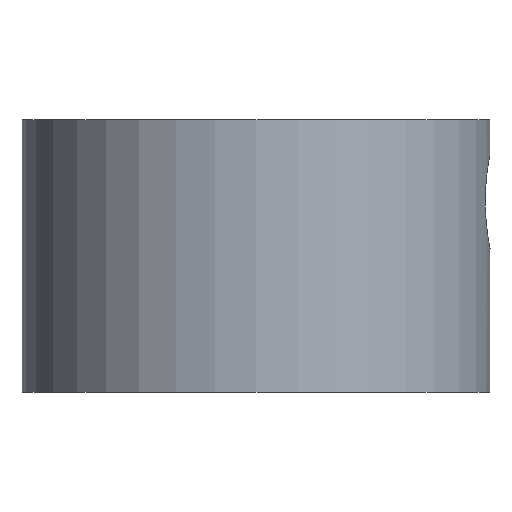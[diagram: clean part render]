
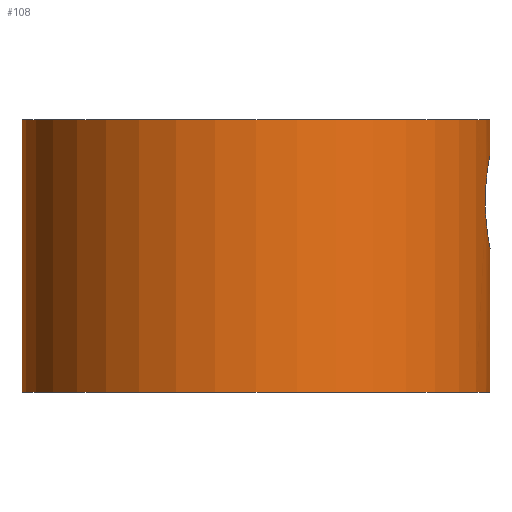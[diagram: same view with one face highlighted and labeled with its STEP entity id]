
A CAD part, left-side view. The second image highlights one B-rep face of the part: STEP entity #108.
In plain terms, the highlighted cylindrical face has radius 15 mm (diameter 30 mm), a full revolution.
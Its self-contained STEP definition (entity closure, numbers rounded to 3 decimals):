
#17=FACE_BOUND('',#37,.T.);
#21=CIRCLE('',#128,15.);
#22=CIRCLE('',#129,15.);
#26=CYLINDRICAL_SURFACE('',#127,15.);
#30=FACE_OUTER_BOUND('',#36,.T.);
#36=EDGE_LOOP('',(#90,#91,#92,#93));
#37=EDGE_LOOP('',(#94));
#46=B_SPLINE_CURVE_WITH_KNOTS('',3,(#278,#279,#280,#281,#282,#283,#284,
#285,#286,#287,#288,#289,#290,#291,#292,#293,#294,#295,#296,#297,#298,#299),
 .UNSPECIFIED.,.T.,.F.,(4,1,1,1,1,1,1,1,1,1,1,1,1,1,1,1,1,1,1,4),(-1.207,
-1.121,-1.035,-0.991,-0.948,
-0.862,-0.819,-0.776,-0.69,
-0.632,-0.575,-0.517,-0.46,
-0.402,-0.345,-0.259,-0.216,
-0.172,-0.086,0.),.UNSPECIFIED.);
#51=LINE('',#344,#55);
#55=VECTOR('',#145,15.);
#57=VERTEX_POINT('',#248);
#62=VERTEX_POINT('',#341);
#63=VERTEX_POINT('',#343);
#69=EDGE_CURVE('',#57,#57,#46,.T.);
#73=EDGE_CURVE('',#62,#62,#21,.T.);
#74=EDGE_CURVE('',#62,#63,#51,.T.);
#75=EDGE_CURVE('',#63,#63,#22,.T.);
#90=ORIENTED_EDGE('',*,*,#73,.F.);
#91=ORIENTED_EDGE('',*,*,#74,.T.);
#92=ORIENTED_EDGE('',*,*,#75,.T.);
#93=ORIENTED_EDGE('',*,*,#74,.F.);
#94=ORIENTED_EDGE('',*,*,#69,.F.);
#108=ADVANCED_FACE('',(#30,#17),#26,.T.);
#127=AXIS2_PLACEMENT_3D('',#340,#141,#142);
#128=AXIS2_PLACEMENT_3D('',#342,#143,#144);
#129=AXIS2_PLACEMENT_3D('',#345,#146,#147);
#141=DIRECTION('center_axis',(0.,0.,1.));
#142=DIRECTION('ref_axis',(1.,0.,0.));
#143=DIRECTION('center_axis',(0.,0.,1.));
#144=DIRECTION('ref_axis',(1.,0.,0.));
#145=DIRECTION('',(0.,0.,-1.));
#146=DIRECTION('center_axis',(0.,0.,1.));
#147=DIRECTION('ref_axis',(1.,0.,0.));
#248=CARTESIAN_POINT('',(2.986,-14.7,12.25));
#278=CARTESIAN_POINT('Ctrl Pts',(2.986,-14.7,12.25));
#279=CARTESIAN_POINT('Ctrl Pts',(2.986,-14.7,12.682));
#280=CARTESIAN_POINT('Ctrl Pts',(2.777,-14.744,13.618));
#281=CARTESIAN_POINT('Ctrl Pts',(2.07,-14.863,14.489));
#282=CARTESIAN_POINT('Ctrl Pts',(1.314,-14.947,14.975));
#283=CARTESIAN_POINT('Ctrl Pts',(0.432,-15.005,15.278));
#284=CARTESIAN_POINT('Ctrl Pts',(-0.434,-15.005,15.276));
#285=CARTESIAN_POINT('Ctrl Pts',(-1.319,-14.946,14.973));
#286=CARTESIAN_POINT('Ctrl Pts',(-2.076,-14.863,14.485));
#287=CARTESIAN_POINT('Ctrl Pts',(-2.677,-14.761,13.741));
#288=CARTESIAN_POINT('Ctrl Pts',(-2.995,-14.698,12.683));
#289=CARTESIAN_POINT('Ctrl Pts',(-2.995,-14.698,11.82));
#290=CARTESIAN_POINT('Ctrl Pts',(-2.728,-14.752,10.913));
#291=CARTESIAN_POINT('Ctrl Pts',(-2.214,-14.839,10.175));
#292=CARTESIAN_POINT('Ctrl Pts',(-1.537,-14.928,9.623));
#293=CARTESIAN_POINT('Ctrl Pts',(-0.508,-15.006,9.219));
#294=CARTESIAN_POINT('Ctrl Pts',(0.433,-15.005,9.223));
#295=CARTESIAN_POINT('Ctrl Pts',(1.314,-14.947,9.525));
#296=CARTESIAN_POINT('Ctrl Pts',(2.07,-14.863,10.011));
#297=CARTESIAN_POINT('Ctrl Pts',(2.777,-14.744,10.882));
#298=CARTESIAN_POINT('Ctrl Pts',(2.986,-14.7,11.818));
#299=CARTESIAN_POINT('Ctrl Pts',(2.986,-14.7,12.25));
#340=CARTESIAN_POINT('Origin',(0.,0.,0.));
#341=CARTESIAN_POINT('',(-15.,0.,17.5));
#342=CARTESIAN_POINT('Origin',(0.,0.,17.5));
#343=CARTESIAN_POINT('',(-15.,0.,0.));
#344=CARTESIAN_POINT('',(-15.,0.,0.));
#345=CARTESIAN_POINT('Origin',(0.,0.,0.));
